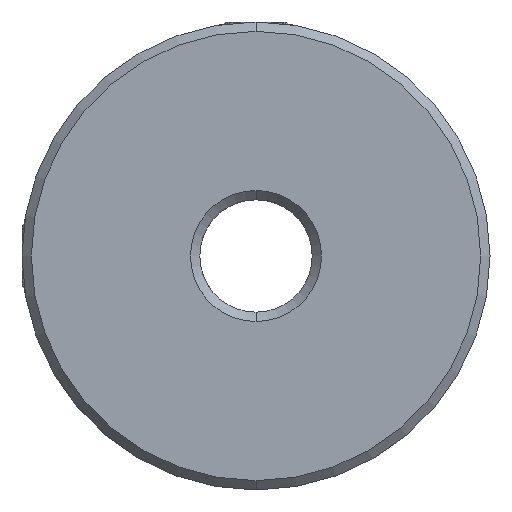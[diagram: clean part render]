
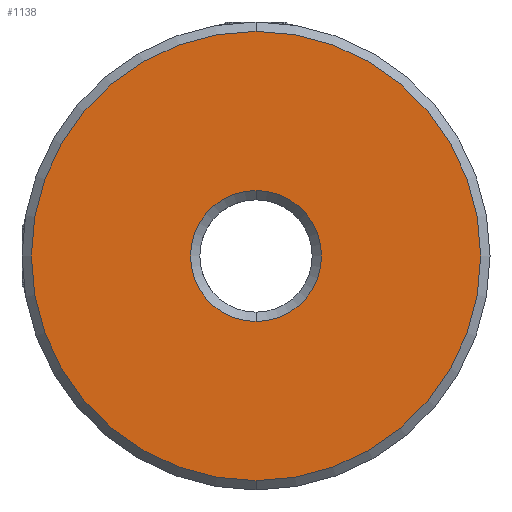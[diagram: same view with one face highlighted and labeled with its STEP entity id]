
A CAD part, front view. The second image highlights one B-rep face of the part: STEP entity #1138.
In plain terms, the highlighted planar face has unit normal (0, -1, 0).
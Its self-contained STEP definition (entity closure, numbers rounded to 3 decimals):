
#64 = AXIS2_PLACEMENT_3D ( 'NONE', #1424, #553, #838 ) ;
#251 = VERTEX_POINT ( 'NONE', #644 ) ;
#258 = CARTESIAN_POINT ( 'NONE',  ( -10.188, -0.277, 12.046 ) ) ;
#263 = CARTESIAN_POINT ( 'NONE',  ( -10.188, -0.277, 0.046 ) ) ;
#308 = EDGE_CURVE ( 'NONE', #251, #454, #352, .T. ) ;
#350 = ORIENTED_EDGE ( 'NONE', *, *, #1782, .T. ) ;
#352 = CIRCLE ( 'NONE', #2396, 3.5 ) ;
#363 = CARTESIAN_POINT ( 'NONE',  ( -10.188, -0.277, 0.046 ) ) ;
#423 = DIRECTION ( 'NONE',  ( 0., 0., 1. ) ) ;
#454 = VERTEX_POINT ( 'NONE', #1963 ) ;
#534 = EDGE_CURVE ( 'NONE', #1231, #3588, #3338, .T. ) ;
#553 = DIRECTION ( 'NONE',  ( 0., 1., 0. ) ) ;
#606 = ORIENTED_EDGE ( 'NONE', *, *, #308, .T. ) ;
#644 = CARTESIAN_POINT ( 'NONE',  ( -10.188, -0.277, 3.546 ) ) ;
#675 = CARTESIAN_POINT ( 'NONE',  ( -10.188, -0.277, -11.954 ) ) ;
#838 = DIRECTION ( 'NONE',  ( 0., 0., 1. ) ) ;
#903 = DIRECTION ( 'NONE',  ( 0., -1., 0. ) ) ;
#908 = DIRECTION ( 'NONE',  ( 0., -1., 0. ) ) ;
#1138 = ADVANCED_FACE ( 'NONE', ( #3059, #2286 ), #3384, .F. ) ;
#1145 = CARTESIAN_POINT ( 'NONE',  ( -10.188, -0.277, 0.046 ) ) ;
#1231 = VERTEX_POINT ( 'NONE', #675 ) ;
#1382 = CIRCLE ( 'NONE', #2595, 12. ) ;
#1424 = CARTESIAN_POINT ( 'NONE',  ( -10.188, -0.277, 0.046 ) ) ;
#1455 = DIRECTION ( 'NONE',  ( 0., 0., 1. ) ) ;
#1478 = DIRECTION ( 'NONE',  ( 0., 0., 1. ) ) ;
#1782 = EDGE_CURVE ( 'NONE', #454, #251, #1785, .T. ) ;
#1785 = CIRCLE ( 'NONE', #3328, 3.5 ) ;
#1963 = CARTESIAN_POINT ( 'NONE',  ( -10.188, -0.277, -3.454 ) ) ;
#1974 = EDGE_LOOP ( 'NONE', ( #350, #606 ) ) ;
#2203 = AXIS2_PLACEMENT_3D ( 'NONE', #2579, #903, #3169 ) ;
#2224 = DIRECTION ( 'NONE',  ( 0., 1., 0. ) ) ;
#2234 = EDGE_CURVE ( 'NONE', #3588, #1231, #1382, .T. ) ;
#2286 = FACE_BOUND ( 'NONE', #1974, .T. ) ;
#2396 = AXIS2_PLACEMENT_3D ( 'NONE', #363, #3479, #1478 ) ;
#2454 = ORIENTED_EDGE ( 'NONE', *, *, #534, .T. ) ;
#2579 = CARTESIAN_POINT ( 'NONE',  ( -10.188, -0.277, 0.046 ) ) ;
#2595 = AXIS2_PLACEMENT_3D ( 'NONE', #1145, #908, #1455 ) ;
#3059 = FACE_OUTER_BOUND ( 'NONE', #3303, .T. ) ;
#3169 = DIRECTION ( 'NONE',  ( 0., 0., 1. ) ) ;
#3303 = EDGE_LOOP ( 'NONE', ( #3571, #2454 ) ) ;
#3328 = AXIS2_PLACEMENT_3D ( 'NONE', #263, #2224, #423 ) ;
#3338 = CIRCLE ( 'NONE', #2203, 12. ) ;
#3384 = PLANE ( 'NONE',  #64 ) ;
#3479 = DIRECTION ( 'NONE',  ( 0., 1., 0. ) ) ;
#3571 = ORIENTED_EDGE ( 'NONE', *, *, #2234, .T. ) ;
#3588 = VERTEX_POINT ( 'NONE', #258 ) ;
